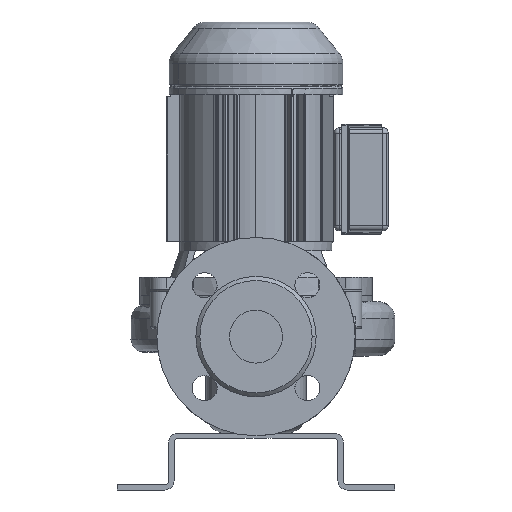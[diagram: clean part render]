
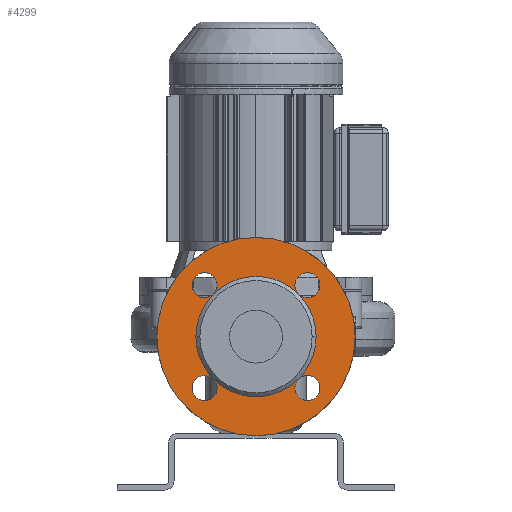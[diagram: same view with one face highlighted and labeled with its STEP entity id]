
A CAD part, front view. The second image highlights one B-rep face of the part: STEP entity #4299.
In plain terms, the highlighted planar face has unit normal (0, -1, 0) as drawn and (0, 1, 0) by its records, which use the part's own axes.
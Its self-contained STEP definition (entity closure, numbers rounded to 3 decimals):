
#4299=ADVANCED_FACE('',(#8669,#8670),#8671,.T.);
#4553=EDGE_CURVE('',#9073,#9067,#9074,.T.);
#4559=EDGE_CURVE('',#9083,#9084,#9085,.T.);
#4563=EDGE_CURVE('',#9091,#9092,#9093,.T.);
#4567=EDGE_CURVE('',#9099,#9100,#9101,.T.);
#4571=EDGE_CURVE('',#9107,#9108,#9109,.T.);
#4593=EDGE_CURVE('',#9149,#9150,#9151,.T.);
#4595=EDGE_CURVE('',#9153,#9149,#9154,.T.);
#4597=EDGE_CURVE('',#9156,#9153,#9157,.T.);
#4623=EDGE_CURVE('',#9191,#9156,#9192,.T.);
#4625=EDGE_CURVE('',#9194,#9191,#9195,.T.);
#4627=EDGE_CURVE('',#9150,#9194,#9197,.T.);
#4643=EDGE_CURVE('',#9067,#9073,#9218,.T.);
#4645=EDGE_CURVE('',#9194,#9099,#9220,.T.);
#4647=EDGE_CURVE('',#9100,#9194,#9222,.T.);
#4649=EDGE_CURVE('',#9191,#9107,#9224,.T.);
#4651=EDGE_CURVE('',#9108,#9191,#9226,.T.);
#4653=EDGE_CURVE('',#9153,#9083,#9228,.T.);
#4655=EDGE_CURVE('',#9084,#9153,#9230,.T.);
#4657=EDGE_CURVE('',#9149,#9091,#9232,.T.);
#4659=EDGE_CURVE('',#9092,#9149,#9234,.T.);
#8669=FACE_OUTER_BOUND('',#15075,.T.);
#8670=FACE_BOUND('',#15076,.T.);
#8671=PLANE('',#15077);
#9067=VERTEX_POINT('',#17456);
#9073=VERTEX_POINT('',#17477);
#9074=CIRCLE('',#17478,75.0);
#9083=VERTEX_POINT('',#17490);
#9084=VERTEX_POINT('',#17491);
#9085=CIRCLE('',#17492,9.5);
#9091=VERTEX_POINT('',#17500);
#9092=VERTEX_POINT('',#17501);
#9093=CIRCLE('',#17502,9.5);
#9099=VERTEX_POINT('',#17510);
#9100=VERTEX_POINT('',#17511);
#9101=CIRCLE('',#17512,9.5);
#9107=VERTEX_POINT('',#17520);
#9108=VERTEX_POINT('',#17521);
#9109=CIRCLE('',#17522,9.5);
#9149=VERTEX_POINT('',#17574);
#9150=VERTEX_POINT('',#17575);
#9151=CIRCLE('',#17576,45.5);
#9153=VERTEX_POINT('',#17579);
#9154=CIRCLE('',#17580,45.5);
#9156=VERTEX_POINT('',#17583);
#9157=CIRCLE('',#17584,45.5);
#9191=VERTEX_POINT('',#17631);
#9192=CIRCLE('',#17632,45.5);
#9194=VERTEX_POINT('',#17635);
#9195=CIRCLE('',#17636,45.5);
#9197=CIRCLE('',#17639,45.5);
#9218=CIRCLE('',#17670,75.0);
#9220=CIRCLE('',#17673,9.5);
#9222=CIRCLE('',#17676,9.5);
#9224=CIRCLE('',#17679,9.5);
#9226=CIRCLE('',#17682,9.5);
#9228=CIRCLE('',#17685,9.5);
#9230=CIRCLE('',#17688,9.5);
#9232=CIRCLE('',#17691,9.5);
#9234=CIRCLE('',#17694,9.5);
#15075=EDGE_LOOP('',(#24137,#24138));
#15076=EDGE_LOOP('',(#24139,#24140,#24141,#24142,#24143,#24144,#24145,#24146,#24147,#24148,#24149,#24150,#24151,#24152,#24153,#24154,#24155,#24156));
#15077=AXIS2_PLACEMENT_3D('',#24157,#24158,#24159);
#17456=CARTESIAN_POINT('',(-75.0,122.0,-6.));
#17477=CARTESIAN_POINT('',(75.0,122.0,-6.));
#17478=AXIS2_PLACEMENT_3D('',#25273,#25274,#25275);
#17490=CARTESIAN_POINT('',(44.25,122.0,25.047));
#17491=CARTESIAN_POINT('',(33.532,122.0,40.735));
#17492=AXIS2_PLACEMENT_3D('',#25282,#25283,#25284);
#17500=CARTESIAN_POINT('',(-31.047,122.,38.25));
#17501=CARTESIAN_POINT('',(-46.735,122.,27.532));
#17502=AXIS2_PLACEMENT_3D('',#25288,#25289,#25290);
#17510=CARTESIAN_POINT('',(-44.25,122.,-37.047));
#17511=CARTESIAN_POINT('',(-33.532,122.,-52.735));
#17512=AXIS2_PLACEMENT_3D('',#25294,#25295,#25296);
#17520=CARTESIAN_POINT('',(31.047,122.0,-50.25));
#17521=CARTESIAN_POINT('',(46.735,122.0,-39.532));
#17522=AXIS2_PLACEMENT_3D('',#25300,#25301,#25302);
#17574=CARTESIAN_POINT('',(-32.173,122.0,26.173));
#17575=CARTESIAN_POINT('',(-45.5,122.0,-6.));
#17576=AXIS2_PLACEMENT_3D('',#25331,#25332,#25333);
#17579=CARTESIAN_POINT('',(32.173,122.0,26.173));
#17580=AXIS2_PLACEMENT_3D('',#25334,#25335,#25336);
#17583=CARTESIAN_POINT('',(45.5,122.0,-6.));
#17584=AXIS2_PLACEMENT_3D('',#25337,#25338,#25339);
#17631=CARTESIAN_POINT('',(32.173,122.0,-38.173));
#17632=AXIS2_PLACEMENT_3D('',#25376,#25377,#25378);
#17635=CARTESIAN_POINT('',(-32.173,122.0,-38.173));
#17636=AXIS2_PLACEMENT_3D('',#25379,#25380,#25381);
#17639=AXIS2_PLACEMENT_3D('',#25382,#25383,#25384);
#17670=AXIS2_PLACEMENT_3D('',#25402,#25403,#25404);
#17673=AXIS2_PLACEMENT_3D('',#25405,#25406,#25407);
#17676=AXIS2_PLACEMENT_3D('',#25408,#25409,#25410);
#17679=AXIS2_PLACEMENT_3D('',#25411,#25412,#25413);
#17682=AXIS2_PLACEMENT_3D('',#25414,#25415,#25416);
#17685=AXIS2_PLACEMENT_3D('',#25417,#25418,#25419);
#17688=AXIS2_PLACEMENT_3D('',#25420,#25421,#25422);
#17691=AXIS2_PLACEMENT_3D('',#25423,#25424,#25425);
#17694=AXIS2_PLACEMENT_3D('',#25426,#25427,#25428);
#24137=ORIENTED_EDGE('',*,*,#4643,.F.);
#24138=ORIENTED_EDGE('',*,*,#4553,.F.);
#24139=ORIENTED_EDGE('',*,*,#4593,.T.);
#24140=ORIENTED_EDGE('',*,*,#4627,.T.);
#24141=ORIENTED_EDGE('',*,*,#4645,.T.);
#24142=ORIENTED_EDGE('',*,*,#4567,.T.);
#24143=ORIENTED_EDGE('',*,*,#4647,.T.);
#24144=ORIENTED_EDGE('',*,*,#4625,.T.);
#24145=ORIENTED_EDGE('',*,*,#4649,.T.);
#24146=ORIENTED_EDGE('',*,*,#4571,.T.);
#24147=ORIENTED_EDGE('',*,*,#4651,.T.);
#24148=ORIENTED_EDGE('',*,*,#4623,.T.);
#24149=ORIENTED_EDGE('',*,*,#4597,.T.);
#24150=ORIENTED_EDGE('',*,*,#4653,.T.);
#24151=ORIENTED_EDGE('',*,*,#4559,.T.);
#24152=ORIENTED_EDGE('',*,*,#4655,.T.);
#24153=ORIENTED_EDGE('',*,*,#4595,.T.);
#24154=ORIENTED_EDGE('',*,*,#4657,.T.);
#24155=ORIENTED_EDGE('',*,*,#4563,.T.);
#24156=ORIENTED_EDGE('',*,*,#4659,.T.);
#24157=CARTESIAN_POINT('',(60.25,122.0,-6.));
#24158=DIRECTION('',(0.0,1.0,0.0));
#24159=DIRECTION('',(0.0,0.0,1.0));
#25273=CARTESIAN_POINT('',(0.0,122.0,-6.));
#25274=DIRECTION('',(0.0,-1.0,0.0));
#25275=DIRECTION('',(1.0,0.0,0.));
#25282=CARTESIAN_POINT('',(38.891,122.0,32.891));
#25283=DIRECTION('',(0.0,-1.0,0.0));
#25284=DIRECTION('',(0.564,0.0,-0.826));
#25288=CARTESIAN_POINT('',(-38.891,122.,32.891));
#25289=DIRECTION('',(0.0,-1.0,0.0));
#25290=DIRECTION('',(0.826,0.0,0.564));
#25294=CARTESIAN_POINT('',(-38.891,122.,-44.891));
#25295=DIRECTION('',(0.0,-1.0,0.0));
#25296=DIRECTION('',(-0.564,0.0,0.826));
#25300=CARTESIAN_POINT('',(38.891,122.0,-44.891));
#25301=DIRECTION('',(0.0,-1.0,-0.0));
#25302=DIRECTION('',(-0.826,0.0,-0.564));
#25331=CARTESIAN_POINT('',(0.0,122.0,-6.));
#25332=DIRECTION('',(0.0,-1.0,0.0));
#25333=DIRECTION('',(1.0,0.0,0.));
#25334=CARTESIAN_POINT('',(0.0,122.0,-6.));
#25335=DIRECTION('',(0.0,-1.0,0.0));
#25336=DIRECTION('',(1.0,0.0,0.));
#25337=CARTESIAN_POINT('',(0.0,122.0,-6.));
#25338=DIRECTION('',(0.0,-1.0,0.0));
#25339=DIRECTION('',(1.0,0.0,0.));
#25376=CARTESIAN_POINT('',(0.0,122.0,-6.));
#25377=DIRECTION('',(0.0,-1.0,0.0));
#25378=DIRECTION('',(1.0,0.0,0.));
#25379=CARTESIAN_POINT('',(0.0,122.0,-6.));
#25380=DIRECTION('',(0.0,-1.0,0.0));
#25381=DIRECTION('',(1.0,0.0,0.));
#25382=CARTESIAN_POINT('',(0.0,122.0,-6.));
#25383=DIRECTION('',(0.0,-1.0,0.0));
#25384=DIRECTION('',(1.0,0.0,0.));
#25402=CARTESIAN_POINT('',(0.0,122.0,-6.));
#25403=DIRECTION('',(0.0,-1.0,0.0));
#25404=DIRECTION('',(1.0,0.0,0.));
#25405=CARTESIAN_POINT('',(-38.891,122.,-44.891));
#25406=DIRECTION('',(0.0,-1.0,0.0));
#25407=DIRECTION('',(-0.564,0.0,0.826));
#25408=CARTESIAN_POINT('',(-38.891,122.,-44.891));
#25409=DIRECTION('',(0.0,-1.0,0.0));
#25410=DIRECTION('',(-0.564,0.0,0.826));
#25411=CARTESIAN_POINT('',(38.891,122.0,-44.891));
#25412=DIRECTION('',(0.0,-1.0,-0.0));
#25413=DIRECTION('',(-0.826,0.0,-0.564));
#25414=CARTESIAN_POINT('',(38.891,122.0,-44.891));
#25415=DIRECTION('',(0.0,-1.0,-0.0));
#25416=DIRECTION('',(-0.826,0.0,-0.564));
#25417=CARTESIAN_POINT('',(38.891,122.0,32.891));
#25418=DIRECTION('',(0.0,-1.0,0.0));
#25419=DIRECTION('',(0.564,0.0,-0.826));
#25420=CARTESIAN_POINT('',(38.891,122.0,32.891));
#25421=DIRECTION('',(0.0,-1.0,0.0));
#25422=DIRECTION('',(0.564,0.0,-0.826));
#25423=CARTESIAN_POINT('',(-38.891,122.,32.891));
#25424=DIRECTION('',(0.0,-1.0,0.0));
#25425=DIRECTION('',(0.826,0.0,0.564));
#25426=CARTESIAN_POINT('',(-38.891,122.,32.891));
#25427=DIRECTION('',(0.0,-1.0,0.0));
#25428=DIRECTION('',(0.826,0.0,0.564));
